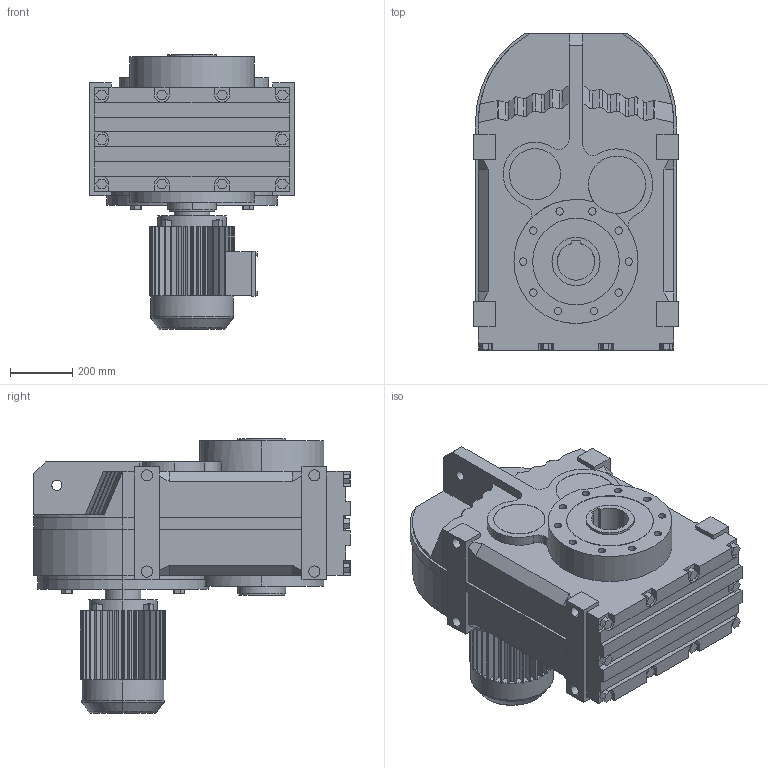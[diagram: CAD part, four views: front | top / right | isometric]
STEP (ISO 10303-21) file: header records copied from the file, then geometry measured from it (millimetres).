
FILE_DESCRIPTION(('Open CASCADE Model'),'2;1');
FILE_NAME('Open CASCADE Shape Model','2018-09-11T15:32:48',('Author'),( 'Open CASCADE'),'Open CASCADE STEP processor 6.3','Open CASCADE 6.3' ,'Unknown');
FILE_SCHEMA(('AUTOMOTIVE_DESIGN_CC2 { 1 2 10303 214 -1 1 5 4 }'));
Length unit declared in the file: millimetre
Products named in the file (4): 7_FA157-Y132M; FA27‵157_157.step; 萇儂_550.step; す瑩諾陑粣F_157.step
Assembly tree (3 placements, depth 2):
  7_FA157-Y132M
    FA27‵157_157.step
    萇儂_550.step
    す瑩諾陑粣F_157.step
Bounding box: 660 x 1021 x 885 mm (x, y, z)
Volume: 235400113.4 mm3; surface area: 4738965.2 mm2
Topology: 3 solids, 3 shells, 782 faces, 2059 edges, 1342 vertices
Faces by surface type: plane 563, cylinder 197, bspline 16, torus 4, cone 2
Entity records: 51980 total; most frequent: CARTESIAN_POINT 12433, DIRECTION 6929, ORIENTED_EDGE 4118, PCURVE 4118, DEFINITIONAL_REPRESENTATION 4118, LINE 3881, VECTOR 3881, EDGE_CURVE 2059
